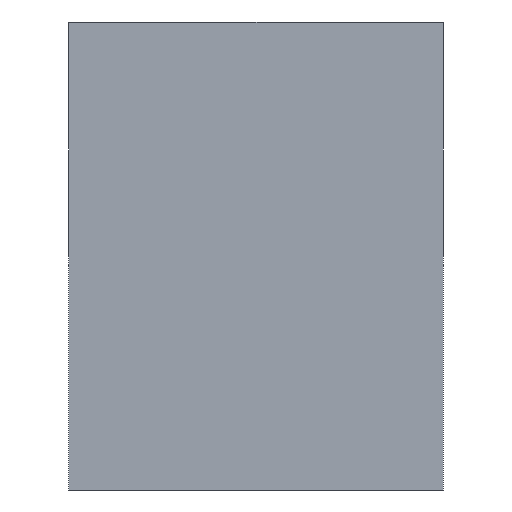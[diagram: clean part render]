
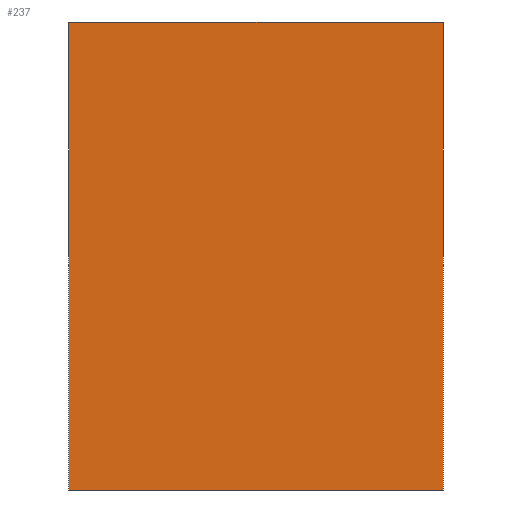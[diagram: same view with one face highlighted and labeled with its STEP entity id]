
A CAD part, front view. The second image highlights one B-rep face of the part: STEP entity #237.
In plain terms, the highlighted planar face has unit normal (0, -1, 0).
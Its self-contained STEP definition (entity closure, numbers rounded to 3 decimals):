
#21 = EDGE_CURVE('',#22,#24,#26,.T.);
#22 = VERTEX_POINT('',#23);
#23 = CARTESIAN_POINT('',(44.775,23.,48.));
#24 = VERTEX_POINT('',#25);
#25 = CARTESIAN_POINT('',(44.775,23.,58.));
#26 = SURFACE_CURVE('',#27,(#31,#43),.PCURVE_S1.);
#27 = LINE('',#28,#29);
#28 = CARTESIAN_POINT('',(44.775,23.,48.));
#29 = VECTOR('',#30,1.);
#30 = DIRECTION('',(0.,0.,1.));
#31 = PCURVE('',#32,#37);
#32 = PLANE('',#33);
#33 = AXIS2_PLACEMENT_3D('',#34,#35,#36);
#34 = CARTESIAN_POINT('',(44.775,23.,48.));
#35 = DIRECTION('',(1.,0.,0.));
#36 = DIRECTION('',(0.,0.,1.));
#37 = DEFINITIONAL_REPRESENTATION('',(#38),#42);
#38 = LINE('',#39,#40);
#39 = CARTESIAN_POINT('',(0.,0.));
#40 = VECTOR('',#41,1.);
#41 = DIRECTION('',(1.,0.));
#42 = ( GEOMETRIC_REPRESENTATION_CONTEXT(2) 
PARAMETRIC_REPRESENTATION_CONTEXT() REPRESENTATION_CONTEXT('2D SPACE',''
  ) );
#43 = PCURVE('',#44,#49);
#44 = PLANE('',#45);
#45 = AXIS2_PLACEMENT_3D('',#46,#47,#48);
#46 = CARTESIAN_POINT('',(44.775,23.,48.));
#47 = DIRECTION('',(0.,1.,0.));
#48 = DIRECTION('',(0.,0.,1.));
#49 = DEFINITIONAL_REPRESENTATION('',(#50),#54);
#50 = LINE('',#51,#52);
#51 = CARTESIAN_POINT('',(0.,0.));
#52 = VECTOR('',#53,1.);
#53 = DIRECTION('',(1.,0.));
#54 = ( GEOMETRIC_REPRESENTATION_CONTEXT(2) 
PARAMETRIC_REPRESENTATION_CONTEXT() REPRESENTATION_CONTEXT('2D SPACE',''
  ) );
#72 = PLANE('',#73);
#73 = AXIS2_PLACEMENT_3D('',#74,#75,#76);
#74 = CARTESIAN_POINT('',(44.775,23.,48.));
#75 = DIRECTION('',(0.,0.,1.));
#76 = DIRECTION('',(1.,0.,0.));
#126 = PLANE('',#127);
#127 = AXIS2_PLACEMENT_3D('',#128,#129,#130);
#128 = CARTESIAN_POINT('',(44.775,23.,58.));
#129 = DIRECTION('',(0.,0.,1.));
#130 = DIRECTION('',(1.,0.,0.));
#141 = EDGE_CURVE('',#142,#144,#146,.T.);
#142 = VERTEX_POINT('',#143);
#143 = CARTESIAN_POINT('',(52.775,23.,48.));
#144 = VERTEX_POINT('',#145);
#145 = CARTESIAN_POINT('',(52.775,23.,58.));
#146 = SURFACE_CURVE('',#147,(#151,#163),.PCURVE_S1.);
#147 = LINE('',#148,#149);
#148 = CARTESIAN_POINT('',(52.775,23.,48.));
#149 = VECTOR('',#150,1.);
#150 = DIRECTION('',(0.,0.,1.));
#151 = PCURVE('',#152,#157);
#152 = PLANE('',#153);
#153 = AXIS2_PLACEMENT_3D('',#154,#155,#156);
#154 = CARTESIAN_POINT('',(52.775,23.,48.));
#155 = DIRECTION('',(1.,0.,0.));
#156 = DIRECTION('',(0.,0.,1.));
#157 = DEFINITIONAL_REPRESENTATION('',(#158),#162);
#158 = LINE('',#159,#160);
#159 = CARTESIAN_POINT('',(0.,0.));
#160 = VECTOR('',#161,1.);
#161 = DIRECTION('',(1.,0.));
#162 = ( GEOMETRIC_REPRESENTATION_CONTEXT(2) 
PARAMETRIC_REPRESENTATION_CONTEXT() REPRESENTATION_CONTEXT('2D SPACE',''
  ) );
#163 = PCURVE('',#44,#164);
#164 = DEFINITIONAL_REPRESENTATION('',(#165),#169);
#165 = LINE('',#166,#167);
#166 = CARTESIAN_POINT('',(0.,8.));
#167 = VECTOR('',#168,1.);
#168 = DIRECTION('',(1.,0.));
#169 = ( GEOMETRIC_REPRESENTATION_CONTEXT(2) 
PARAMETRIC_REPRESENTATION_CONTEXT() REPRESENTATION_CONTEXT('2D SPACE',''
  ) );
#237 = ADVANCED_FACE('',(#238),#44,.F.);
#238 = FACE_BOUND('',#239,.F.);
#239 = EDGE_LOOP('',(#240,#261,#262,#283));
#240 = ORIENTED_EDGE('',*,*,#241,.F.);
#241 = EDGE_CURVE('',#22,#142,#242,.T.);
#242 = SURFACE_CURVE('',#243,(#247,#254),.PCURVE_S1.);
#243 = LINE('',#244,#245);
#244 = CARTESIAN_POINT('',(44.775,23.,48.));
#245 = VECTOR('',#246,1.);
#246 = DIRECTION('',(1.,0.,0.));
#247 = PCURVE('',#44,#248);
#248 = DEFINITIONAL_REPRESENTATION('',(#249),#253);
#249 = LINE('',#250,#251);
#250 = CARTESIAN_POINT('',(0.,0.));
#251 = VECTOR('',#252,1.);
#252 = DIRECTION('',(0.,1.));
#253 = ( GEOMETRIC_REPRESENTATION_CONTEXT(2) 
PARAMETRIC_REPRESENTATION_CONTEXT() REPRESENTATION_CONTEXT('2D SPACE',''
  ) );
#254 = PCURVE('',#72,#255);
#255 = DEFINITIONAL_REPRESENTATION('',(#256),#260);
#256 = LINE('',#257,#258);
#257 = CARTESIAN_POINT('',(0.,0.));
#258 = VECTOR('',#259,1.);
#259 = DIRECTION('',(1.,0.));
#260 = ( GEOMETRIC_REPRESENTATION_CONTEXT(2) 
PARAMETRIC_REPRESENTATION_CONTEXT() REPRESENTATION_CONTEXT('2D SPACE',''
  ) );
#261 = ORIENTED_EDGE('',*,*,#21,.T.);
#262 = ORIENTED_EDGE('',*,*,#263,.T.);
#263 = EDGE_CURVE('',#24,#144,#264,.T.);
#264 = SURFACE_CURVE('',#265,(#269,#276),.PCURVE_S1.);
#265 = LINE('',#266,#267);
#266 = CARTESIAN_POINT('',(44.775,23.,58.));
#267 = VECTOR('',#268,1.);
#268 = DIRECTION('',(1.,0.,0.));
#269 = PCURVE('',#44,#270);
#270 = DEFINITIONAL_REPRESENTATION('',(#271),#275);
#271 = LINE('',#272,#273);
#272 = CARTESIAN_POINT('',(10.,0.));
#273 = VECTOR('',#274,1.);
#274 = DIRECTION('',(0.,1.));
#275 = ( GEOMETRIC_REPRESENTATION_CONTEXT(2) 
PARAMETRIC_REPRESENTATION_CONTEXT() REPRESENTATION_CONTEXT('2D SPACE',''
  ) );
#276 = PCURVE('',#126,#277);
#277 = DEFINITIONAL_REPRESENTATION('',(#278),#282);
#278 = LINE('',#279,#280);
#279 = CARTESIAN_POINT('',(0.,0.));
#280 = VECTOR('',#281,1.);
#281 = DIRECTION('',(1.,0.));
#282 = ( GEOMETRIC_REPRESENTATION_CONTEXT(2) 
PARAMETRIC_REPRESENTATION_CONTEXT() REPRESENTATION_CONTEXT('2D SPACE',''
  ) );
#283 = ORIENTED_EDGE('',*,*,#141,.F.);
